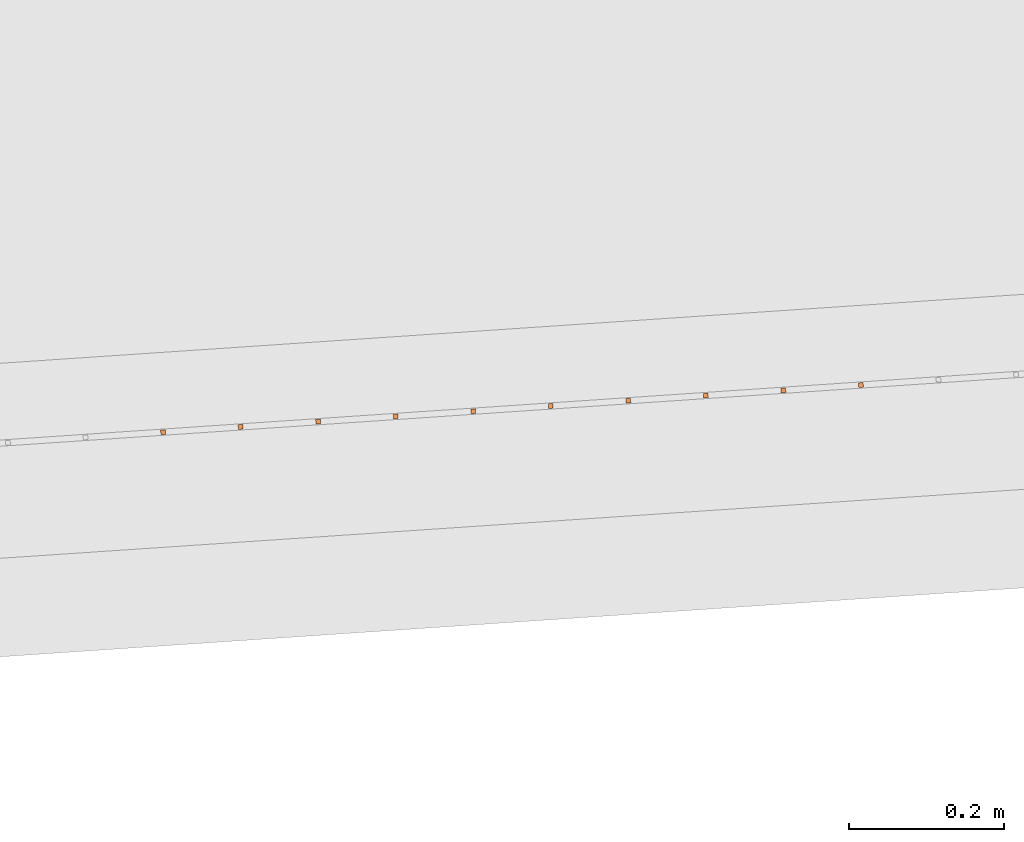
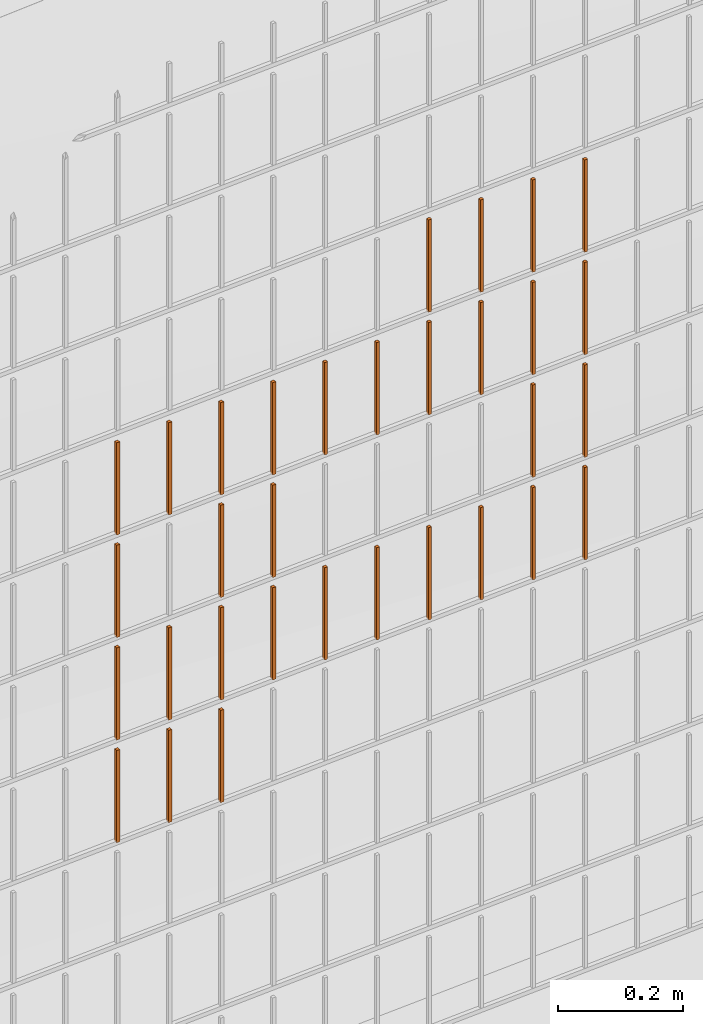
# One storey, part 390 of 1809: 32 proxies, 1 element without a shape of its own.
"""IFC2X3 building model written with IfcOpenShell, lengths in millimetres."""

from ifc_helpers import new_model, entity, si_unit, converted_unit, derived_unit, money_unit, direction, frame, origin_with_axes, place, context, subcontext, project, spatial, faceted_brep, source, transform, mapped, material, type_object, element, aggregate, save


model = new_model("IFC2X3")

# Units and contexts
model_context = context("Model", 3, precision=0.01, world=origin_with_axes(), true_north=direction((0.0, 1.0)))
body_context = subcontext(model_context, "Body", "Model", "MODEL_VIEW")
ifc_project = project(units=[si_unit("LENGTHUNIT", "METRE", prefix="MILLI"), si_unit("AREAUNIT", "SQUARE_METRE"), si_unit("VOLUMEUNIT", "CUBIC_METRE"), converted_unit("PLANEANGLEUNIT", "DEGREE", entity("IfcPlaneAngleMeasure", 0.0174532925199), si_unit("PLANEANGLEUNIT", "RADIAN"), dimensions=[0, 0, 0, 0, 0, 0, 0]), si_unit("SOLIDANGLEUNIT", "STERADIAN"), money_unit("EUR"), converted_unit("TIMEUNIT", "Year", entity("IfcTimeMeasure", 31556926.0), si_unit("TIMEUNIT", "SECOND"), dimensions=[0, 0, 1, 0, 0, 0, 0]), si_unit("MASSUNIT", "GRAM", prefix="KILO"), si_unit("THERMODYNAMICTEMPERATUREUNIT", "DEGREE_CELSIUS"), si_unit("LUMINOUSINTENSITYUNIT", "LUMEN"), si_unit("ENERGYUNIT", "JOULE", prefix="MEGA"), derived_unit("THERMALCONDUCTANCEUNIT", [(si_unit("POWERUNIT", "WATT"), 1), (si_unit("LENGTHUNIT", "METRE"), -1), (si_unit("THERMODYNAMICTEMPERATUREUNIT", "KELVIN"), -1)]), derived_unit("SPECIFICHEATCAPACITYUNIT", [(si_unit("ENERGYUNIT", "JOULE"), 1), (si_unit("MASSUNIT", "GRAM", prefix="KILO"), -1), (si_unit("THERMODYNAMICTEMPERATUREUNIT", "KELVIN"), -1)]), derived_unit("MASSDENSITYUNIT", [(si_unit("MASSUNIT", "GRAM", prefix="KILO"), 1), (si_unit("VOLUMEUNIT", "CUBIC_METRE"), -1)])], contexts=[model_context])

# Site, building, storey
site_placement = place(None, origin_with_axes())
site = spatial("IfcSite", under=ifc_project, at=site_placement, Name="Politse- ja Piirivalveameti ning Päästeameti ühishoone", CompositionType="ELEMENT")
building_placement = place(site_placement, origin_with_axes())
building = spatial("IfcBuilding", under=site, at=building_placement, Name="Politse- ja Piirivalveameti ning Päästeameti ühishoone", CompositionType="ELEMENT")
storey_placement = place(building_placement, origin_with_axes())
storey = spatial("IfcBuildingStorey", under=building, at=storey_placement, Name="Esimene korrus", CompositionType="ELEMENT", Elevation=0.0)

# Proxies
building_element_proxy_type_1 = type_object("IfcBuildingElementProxyType", Name="Railing Type", PredefinedType="NOTDEFINED")
proxy_1_placement = place(storey_placement, frame((89252.001212, -29183.4766571, 203.661247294), z_axis=(0.0, 0.0, 1.0), x_axis=(1.0, 0.0, 0.0)))
proxy_1 = element("IfcBuildingElementProxy", 1, at=proxy_1_placement, inside=storey, type_object=building_element_proxy_type_1, Name="PIIRDEAED")
ifc_material = material(Name="ET-03_Raud")
building_element_proxy_type_2 = type_object("IfcBuildingElementProxyType", Name="IfcBuildingElementProxy", PredefinedType="NOTDEFINED")
shared_shape_1 = source(origin_with_axes(), body_context, "Body", "Brep", [
    faceted_brep([(3.0, 3.0, -0.000752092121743), (-3.0, 3.0, -0.000752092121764), (-3.0, 3.0, 179.99926046), (3.0, 3.0, 179.99926046), (3.0, -3.0, 0.000752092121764), (-3.0, -3.0, 0.000752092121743), (-3.0, -3.0, 180.000764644), (3.0, -3.0, 180.000764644)], [[[0, 1, 2, 3]], [[0, 4, 5, 1]], [[1, 5, 6, 2]], [[3, 2, 6, 7]], [[4, 0, 3, 7]], [[5, 4, 7, 6]]]),
])
proxy_2_placement = place(proxy_1_placement, frame((-13994.7987184, -18243.0706006, 623.717931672), z_axis=(0.0, 0.0, 1.0), x_axis=(1.0, 0.0, 0.0)))
proxy_2 = element("IfcBuildingElementProxy", 2, at=proxy_2_placement, type_object=building_element_proxy_type_2, material=ifc_material, Name="BALUSTER - 001", context=body_context, shape_type="MappedRepresentation", body=[
    mapped(shared_shape_1, transform((0.0, 0.0, 0.0), x_axis=(-0.0673926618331, 0.997726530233, 0.0), y_axis=(-0.997726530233, -0.0673926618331, 0.0), z_axis=(0.0, 0.0, 1.0))),
])
shared_shape_2 = source(origin_with_axes(), body_context, "Body", "Brep", [
    faceted_brep([(3.0, 3.0, -0.000752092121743), (-3.0, 3.0, -0.000752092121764), (-3.0, 3.0, 179.99926046), (3.0, 3.0, 179.99926046), (3.0, -3.0, 0.000752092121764), (-3.0, -3.0, 0.000752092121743), (-3.0, -3.0, 180.000764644), (3.0, -3.0, 180.000764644)], [[[0, 1, 2, 3]], [[0, 4, 5, 1]], [[1, 5, 6, 2]], [[3, 2, 6, 7]], [[4, 0, 3, 7]], [[5, 4, 7, 6]]]),
])
proxy_3_placement = place(proxy_1_placement, frame((-13895.0260654, -18236.3313344, 823.743001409), z_axis=(0.0, 0.0, 1.0), x_axis=(1.0, 0.0, 0.0)))
proxy_3 = element("IfcBuildingElementProxy", 3, at=proxy_3_placement, type_object=building_element_proxy_type_2, material=ifc_material, Name="BALUSTER - 001", context=body_context, shape_type="MappedRepresentation", body=[
    mapped(shared_shape_2, transform((0.0, 0.0, 0.0), x_axis=(-0.0673926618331, 0.997726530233, 0.0), y_axis=(-0.997726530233, -0.0673926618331, 0.0), z_axis=(0.0, 0.0, 1.0))),
])
shared_shape_3 = source(origin_with_axes(), body_context, "Body", "Brep", [
    faceted_brep([(3.0, 3.0, -0.000752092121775), (-3.0, 3.0, -0.000752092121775), (-3.0, 3.0, 179.99926046), (3.0, 3.0, 179.99926046), (3.0, -3.0, 0.000752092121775), (-3.0, -3.0, 0.000752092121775), (-3.0, -3.0, 180.000764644), (3.0, -3.0, 180.000764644)], [[[0, 1, 2, 3]], [[0, 4, 5, 1]], [[1, 5, 6, 2]], [[3, 2, 6, 7]], [[4, 0, 3, 7]], [[5, 4, 7, 6]]]),
])
proxy_4_placement = place(proxy_1_placement, frame((-13196.6174943, -18189.1564711, 823.918489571), z_axis=(0.0, 0.0, 1.0), x_axis=(1.0, 0.0, 0.0)))
proxy_4 = element("IfcBuildingElementProxy", 4, at=proxy_4_placement, type_object=building_element_proxy_type_2, material=ifc_material, Name="BALUSTER - 001", context=body_context, shape_type="MappedRepresentation", body=[
    mapped(shared_shape_3, transform((0.0, 0.0, 0.0), x_axis=(-0.0673926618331, 0.997726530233, 0.0), y_axis=(-0.997726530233, -0.0673926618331, 0.0), z_axis=(0.0, 0.0, 1.0))),
])
shared_shape_4 = source(origin_with_axes(), body_context, "Body", "Brep", [
    faceted_brep([(3.0, 3.0, -0.000752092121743), (-3.0, 3.0, -0.000752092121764), (-3.0, 3.0, 179.99926046), (3.0, 3.0, 179.99926046), (3.0, -3.0, 0.000752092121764), (-3.0, -3.0, 0.000752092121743), (-3.0, -3.0, 180.000764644), (3.0, -3.0, 180.000764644)], [[[0, 1, 2, 3]], [[0, 4, 5, 1]], [[1, 5, 6, 2]], [[3, 2, 6, 7]], [[4, 0, 3, 7]], [[5, 4, 7, 6]]]),
])
proxy_5_placement = place(proxy_1_placement, frame((-13296.3901473, -18195.8957373, 823.893419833), z_axis=(0.0, 0.0, 1.0), x_axis=(1.0, 0.0, 0.0)))
proxy_5 = element("IfcBuildingElementProxy", 5, at=proxy_5_placement, type_object=building_element_proxy_type_2, material=ifc_material, Name="BALUSTER - 001", context=body_context, shape_type="MappedRepresentation", body=[
    mapped(shared_shape_4, transform((0.0, 0.0, 0.0), x_axis=(-0.0673926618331, 0.997726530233, 0.0), y_axis=(-0.997726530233, -0.0673926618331, 0.0), z_axis=(0.0, 0.0, 1.0))),
])
proxy_6_placement = place(proxy_1_placement, frame((-13595.7081064, -18216.1135358, 1223.81821062), z_axis=(0.0, 0.0, 1.0), x_axis=(1.0, 0.0, 0.0)))
proxy_6 = element("IfcBuildingElementProxy", 6, at=proxy_6_placement, type_object=building_element_proxy_type_2, material=ifc_material, Name="BALUSTER - 001", context=body_context, shape_type="MappedRepresentation", body=[
    mapped(shared_shape_4, transform((0.0, 0.0, 0.0), x_axis=(-0.0673926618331, 0.997726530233, 0.0), y_axis=(-0.997726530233, -0.0673926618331, 0.0), z_axis=(0.0, 0.0, 1.0))),
])
shared_shape_5 = source(origin_with_axes(), body_context, "Body", "Brep", [
    faceted_brep([(3.0, 3.0, -0.000752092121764), (-3.0, 3.0, -0.000752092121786), (-3.0, 3.0, 179.99926046), (3.0, 3.0, 179.99926046), (3.0, -3.0, 0.000752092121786), (-3.0, -3.0, 0.000752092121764), (-3.0, -3.0, 180.000764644), (3.0, -3.0, 180.000764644)], [[[0, 1, 2, 3]], [[0, 4, 5, 1]], [[1, 5, 6, 2]], [[3, 2, 6, 7]], [[4, 0, 3, 7]], [[5, 4, 7, 6]]]),
])
proxy_7_placement = place(proxy_1_placement, frame((-14094.5713715, -18249.8098668, 623.692861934), z_axis=(0.0, 0.0, 1.0), x_axis=(1.0, 0.0, 0.0)))
proxy_7 = element("IfcBuildingElementProxy", 7, at=proxy_7_placement, type_object=building_element_proxy_type_2, material=ifc_material, Name="BALUSTER - 001", context=body_context, shape_type="MappedRepresentation", body=[
    mapped(shared_shape_5, transform((0.0, 0.0, 0.0), x_axis=(-0.0673926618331, 0.997726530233, 0.0), y_axis=(-0.997726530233, -0.0673926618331, 0.0), z_axis=(0.0, 0.0, 1.0))),
])
shared_shape_6 = source(origin_with_axes(), body_context, "Body", "Brep", [
    faceted_brep([(3.0, 3.0, -0.000752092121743), (-3.0, 3.0, -0.000752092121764), (-3.0, 3.0, 179.99926046), (3.0, 3.0, 179.99926046), (3.0, -3.0, 0.000752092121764), (-3.0, -3.0, 0.000752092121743), (-3.0, -3.0, 180.000764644), (3.0, -3.0, 180.000764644)], [[[0, 1, 2, 3]], [[0, 4, 5, 1]], [[1, 5, 6, 2]], [[3, 2, 6, 7]], [[4, 0, 3, 7]], [[5, 4, 7, 6]]]),
])
proxy_8_placement = place(proxy_1_placement, frame((-13895.0260654, -18236.3313344, 623.743001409), z_axis=(0.0, 0.0, 1.0), x_axis=(1.0, 0.0, 0.0)))
proxy_8 = element("IfcBuildingElementProxy", 8, at=proxy_8_placement, type_object=building_element_proxy_type_2, material=ifc_material, Name="BALUSTER - 001", context=body_context, shape_type="MappedRepresentation", body=[
    mapped(shared_shape_6, transform((0.0, 0.0, 0.0), x_axis=(-0.0673926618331, 0.997726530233, 0.0), y_axis=(-0.997726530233, -0.0673926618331, 0.0), z_axis=(0.0, 0.0, 1.0))),
])
proxy_9_placement = place(proxy_1_placement, frame((-13994.7987184, -18243.0706006, 1223.71793167), z_axis=(0.0, 0.0, 1.0), x_axis=(1.0, 0.0, 0.0)))
proxy_9 = element("IfcBuildingElementProxy", 9, at=proxy_9_placement, type_object=building_element_proxy_type_2, material=ifc_material, Name="BALUSTER - 001", context=body_context, shape_type="MappedRepresentation", body=[
    mapped(shared_shape_6, transform((0.0, 0.0, 0.0), x_axis=(-0.0673926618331, 0.997726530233, 0.0), y_axis=(-0.997726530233, -0.0673926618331, 0.0), z_axis=(0.0, 0.0, 1.0))),
])
shared_shape_7 = source(origin_with_axes(), body_context, "Body", "Brep", [
    faceted_brep([(3.0, 3.0, -0.000752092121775), (-3.0, 3.0, -0.000752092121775), (-3.0, 3.0, 179.99926046), (3.0, 3.0, 179.99926046), (3.0, -3.0, 0.000752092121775), (-3.0, -3.0, 0.000752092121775), (-3.0, -3.0, 180.000764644), (3.0, -3.0, 180.000764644)], [[[0, 1, 2, 3]], [[0, 4, 5, 1]], [[1, 5, 6, 2]], [[3, 2, 6, 7]], [[4, 0, 3, 7]], [[5, 4, 7, 6]]]),
])
proxy_10_placement = place(proxy_1_placement, frame((-13795.2534124, -18229.5920682, 823.768071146), z_axis=(0.0, 0.0, 1.0), x_axis=(1.0, 0.0, 0.0)))
proxy_10 = element("IfcBuildingElementProxy", 10, at=proxy_10_placement, type_object=building_element_proxy_type_2, material=ifc_material, Name="BALUSTER - 001", context=body_context, shape_type="MappedRepresentation", body=[
    mapped(shared_shape_7, transform((0.0, 0.0, 0.0), x_axis=(-0.0673926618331, 0.997726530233, 0.0), y_axis=(-0.997726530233, -0.0673926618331, 0.0), z_axis=(0.0, 0.0, 1.0))),
])
shared_shape_8 = source(origin_with_axes(), body_context, "Body", "Brep", [
    faceted_brep([(3.0, 3.0, -0.000752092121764), (-3.0, 3.0, -0.000752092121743), (-3.0, 3.0, 179.99926046), (3.0, 3.0, 179.99926046), (3.0, -3.0, 0.000752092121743), (-3.0, -3.0, 0.000752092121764), (-3.0, -3.0, 180.000764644), (3.0, -3.0, 180.000764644)], [[[0, 1, 2, 3]], [[0, 4, 5, 1]], [[1, 5, 6, 2]], [[3, 2, 6, 7]], [[4, 0, 3, 7]], [[5, 4, 7, 6]]]),
])
proxy_11_placement = place(proxy_1_placement, frame((-13196.6174943, -18189.1564711, 1223.91848957), z_axis=(0.0, 0.0, 1.0), x_axis=(1.0, 0.0, 0.0)))
proxy_11 = element("IfcBuildingElementProxy", 11, at=proxy_11_placement, type_object=building_element_proxy_type_2, material=ifc_material, Name="BALUSTER - 001", context=body_context, shape_type="MappedRepresentation", body=[
    mapped(shared_shape_8, transform((0.0, 0.0, 0.0), x_axis=(-0.0673926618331, 0.997726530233, 0.0), y_axis=(-0.997726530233, -0.0673926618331, 0.0), z_axis=(0.0, 0.0, 1.0))),
])
shared_shape_9 = source(origin_with_axes(), body_context, "Body", "Brep", [
    faceted_brep([(3.0, 3.0, -0.000752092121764), (-3.0, 3.0, -0.000752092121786), (-3.0, 3.0, 179.99926046), (3.0, 3.0, 179.99926046), (3.0, -3.0, 0.000752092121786), (-3.0, -3.0, 0.000752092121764), (-3.0, -3.0, 180.000764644), (3.0, -3.0, 180.000764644)], [[[0, 1, 2, 3]], [[0, 4, 5, 1]], [[1, 5, 6, 2]], [[3, 2, 6, 7]], [[4, 0, 3, 7]], [[5, 4, 7, 6]]]),
])
proxy_12_placement = place(proxy_1_placement, frame((-14094.5713715, -18249.8098668, 823.692861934), z_axis=(0.0, 0.0, 1.0), x_axis=(1.0, 0.0, 0.0)))
proxy_12 = element("IfcBuildingElementProxy", 12, at=proxy_12_placement, type_object=building_element_proxy_type_2, material=ifc_material, Name="BALUSTER - 001", context=body_context, shape_type="MappedRepresentation", body=[
    mapped(shared_shape_9, transform((0.0, 0.0, 0.0), x_axis=(-0.0673926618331, 0.997726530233, 0.0), y_axis=(-0.997726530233, -0.0673926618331, 0.0), z_axis=(0.0, 0.0, 1.0))),
])
shared_shape_10 = source(origin_with_axes(), body_context, "Body", "Brep", [
    faceted_brep([(3.0, 3.0, -0.000752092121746), (-3.0, 3.0, -0.000752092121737), (-3.00000000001, 2.99999999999, 179.99926046), (2.99999999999, 2.99999999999, 179.99926046), (3.0, -3.0, 0.000752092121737), (-3.0, -3.0, 0.000752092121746), (-3.00000000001, -3.00000000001, 180.000764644), (2.99999999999, -3.00000000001, 180.000764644)], [[[0, 1, 2, 3]], [[0, 4, 5, 1]], [[1, 5, 6, 2]], [[3, 2, 6, 7]], [[4, 0, 3, 7]], [[5, 4, 7, 6]]]),
])
proxy_13_placement = place(proxy_1_placement, frame((-13895.0260654, -18236.3313344, 1023.74300141), z_axis=(0.0, 0.0, 1.0), x_axis=(1.0, 0.0, 0.0)))
proxy_13 = element("IfcBuildingElementProxy", 13, at=proxy_13_placement, type_object=building_element_proxy_type_2, material=ifc_material, Name="BALUSTER - 001", context=body_context, shape_type="MappedRepresentation", body=[
    mapped(shared_shape_10, transform((0.0, 0.0, 0.0), x_axis=(-0.0673926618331, 0.997726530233, 0.0), y_axis=(-0.997726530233, -0.0673926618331, 0.0), z_axis=(0.0, 0.0, 1.0))),
])
shared_shape_11 = source(origin_with_axes(), body_context, "Body", "Brep", [
    faceted_brep([(3.0, 3.0, -0.000752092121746), (-3.0, 3.0, -0.000752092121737), (-3.00000000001, 2.99999999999, 179.99926046), (2.99999999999, 2.99999999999, 179.99926046), (3.0, -3.0, 0.000752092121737), (-3.0, -3.0, 0.000752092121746), (-3.00000000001, -3.00000000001, 180.000764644), (2.99999999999, -3.00000000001, 180.000764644)], [[[0, 1, 2, 3]], [[0, 4, 5, 1]], [[1, 5, 6, 2]], [[3, 2, 6, 7]], [[4, 0, 3, 7]], [[5, 4, 7, 6]]]),
])
proxy_14_placement = place(proxy_1_placement, frame((-13296.3901473, -18195.8957373, 1023.89341983), z_axis=(0.0, 0.0, 1.0), x_axis=(1.0, 0.0, 0.0)))
proxy_14 = element("IfcBuildingElementProxy", 14, at=proxy_14_placement, type_object=building_element_proxy_type_2, material=ifc_material, Name="BALUSTER - 001", context=body_context, shape_type="MappedRepresentation", body=[
    mapped(shared_shape_11, transform((0.0, 0.0, 0.0), x_axis=(-0.0673926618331, 0.997726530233, 0.0), y_axis=(-0.997726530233, -0.0673926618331, 0.0), z_axis=(0.0, 0.0, 1.0))),
])
shared_shape_12 = source(origin_with_axes(), body_context, "Body", "Brep", [
    faceted_brep([(3.0, 3.0, -0.000752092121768), (-3.0, 3.0, -0.000752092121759), (-3.00000000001, 2.99999999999, 179.99926046), (2.99999999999, 2.99999999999, 179.99926046), (3.0, -3.0, 0.000752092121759), (-3.0, -3.0, 0.000752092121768), (-3.00000000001, -3.00000000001, 180.000764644), (2.99999999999, -3.00000000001, 180.000764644)], [[[0, 1, 2, 3]], [[0, 4, 5, 1]], [[1, 5, 6, 2]], [[3, 2, 6, 7]], [[4, 0, 3, 7]], [[5, 4, 7, 6]]]),
])
proxy_15_placement = place(proxy_1_placement, frame((-14094.5713715, -18249.8098668, 1023.69286193), z_axis=(0.0, 0.0, 1.0), x_axis=(1.0, 0.0, 0.0)))
proxy_15 = element("IfcBuildingElementProxy", 15, at=proxy_15_placement, type_object=building_element_proxy_type_2, material=ifc_material, Name="BALUSTER - 001", context=body_context, shape_type="MappedRepresentation", body=[
    mapped(shared_shape_12, transform((0.0, 0.0, 0.0), x_axis=(-0.0673926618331, 0.997726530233, 0.0), y_axis=(-0.997726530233, -0.0673926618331, 0.0), z_axis=(0.0, 0.0, 1.0))),
])
shared_shape_13 = source(origin_with_axes(), body_context, "Body", "Brep", [
    faceted_brep([(3.0, 3.0, -0.000752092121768), (-3.0, 3.0, -0.000752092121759), (-3.00000000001, 2.99999999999, 179.99926046), (2.99999999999, 2.99999999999, 179.99926046), (3.0, -3.0, 0.000752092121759), (-3.0, -3.0, 0.000752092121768), (-3.00000000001, -3.00000000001, 180.000764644), (2.99999999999, -3.00000000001, 180.000764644)], [[[0, 1, 2, 3]], [[0, 4, 5, 1]], [[1, 5, 6, 2]], [[3, 2, 6, 7]], [[4, 0, 3, 7]], [[5, 4, 7, 6]]]),
])
proxy_16_placement = place(proxy_1_placement, frame((-13196.6174943, -18189.1564711, 1023.91848957), z_axis=(0.0, 0.0, 1.0), x_axis=(1.0, 0.0, 0.0)))
proxy_16 = element("IfcBuildingElementProxy", 16, at=proxy_16_placement, type_object=building_element_proxy_type_2, material=ifc_material, Name="BALUSTER - 001", context=body_context, shape_type="MappedRepresentation", body=[
    mapped(shared_shape_13, transform((0.0, 0.0, 0.0), x_axis=(-0.0673926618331, 0.997726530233, 0.0), y_axis=(-0.997726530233, -0.0673926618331, 0.0), z_axis=(0.0, 0.0, 1.0))),
])
shared_shape_14 = source(origin_with_axes(), body_context, "Body", "Brep", [
    faceted_brep([(3.0, 3.0, -0.000752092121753), (-3.0, 3.0, -0.000752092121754), (-3.0, 3.0, 179.99926046), (3.0, 3.0, 179.99926046), (3.0, -3.0, 0.000752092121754), (-3.0, -3.0, 0.000752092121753), (-3.0, -3.0, 180.000764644), (3.0, -3.0, 180.000764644)], [[[0, 1, 2, 3]], [[0, 4, 5, 1]], [[1, 5, 6, 2]], [[3, 2, 6, 7]], [[4, 0, 3, 7]], [[5, 4, 7, 6]]]),
])
proxy_17_placement = place(proxy_1_placement, frame((-13495.9354533, -18209.3742697, 823.843280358), z_axis=(0.0, 0.0, 1.0), x_axis=(1.0, 0.0, 0.0)))
proxy_17 = element("IfcBuildingElementProxy", 17, at=proxy_17_placement, type_object=building_element_proxy_type_2, material=ifc_material, Name="BALUSTER - 001", context=body_context, shape_type="MappedRepresentation", body=[
    mapped(shared_shape_14, transform((0.0, 0.0, 0.0), x_axis=(-0.0673926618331, 0.997726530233, 0.0), y_axis=(-0.997726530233, -0.0673926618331, 0.0), z_axis=(0.0, 0.0, 1.0))),
])
proxy_18_placement = place(proxy_1_placement, frame((-13495.9354533, -18209.3742697, 1223.84328036), z_axis=(0.0, 0.0, 1.0), x_axis=(1.0, 0.0, 0.0)))
proxy_18 = element("IfcBuildingElementProxy", 18, at=proxy_18_placement, type_object=building_element_proxy_type_2, material=ifc_material, Name="BALUSTER - 001", context=body_context, shape_type="MappedRepresentation", body=[
    mapped(shared_shape_14, transform((0.0, 0.0, 0.0), x_axis=(-0.0673926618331, 0.997726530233, 0.0), y_axis=(-0.997726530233, -0.0673926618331, 0.0), z_axis=(0.0, 0.0, 1.0))),
])
shared_shape_15 = source(origin_with_axes(), body_context, "Body", "Brep", [
    faceted_brep([(3.0, 3.0, -0.000752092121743), (-3.0, 3.0, -0.000752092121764), (-3.0, 3.0, 179.99926046), (3.0, 3.0, 179.99926046), (3.0, -3.0, 0.000752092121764), (-3.0, -3.0, 0.000752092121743), (-3.0, -3.0, 180.000764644), (3.0, -3.0, 180.000764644)], [[[0, 1, 2, 3]], [[0, 4, 5, 1]], [[1, 5, 6, 2]], [[3, 2, 6, 7]], [[4, 0, 3, 7]], [[5, 4, 7, 6]]]),
])
proxy_19_placement = place(proxy_1_placement, frame((-13994.7987184, -18243.0706006, 823.717931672), z_axis=(0.0, 0.0, 1.0), x_axis=(1.0, 0.0, 0.0)))
proxy_19 = element("IfcBuildingElementProxy", 19, at=proxy_19_placement, type_object=building_element_proxy_type_2, material=ifc_material, Name="BALUSTER - 001", context=body_context, shape_type="MappedRepresentation", body=[
    mapped(shared_shape_15, transform((0.0, 0.0, 0.0), x_axis=(-0.0673926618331, 0.997726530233, 0.0), y_axis=(-0.997726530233, -0.0673926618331, 0.0), z_axis=(0.0, 0.0, 1.0))),
])
shared_shape_16 = source(origin_with_axes(), body_context, "Body", "Brep", [
    faceted_brep([(3.0, 3.0, -0.000752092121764), (-3.0, 3.0, -0.000752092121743), (-3.0, 3.0, 179.99926046), (3.0, 3.0, 179.99926046), (3.0, -3.0, 0.000752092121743), (-3.0, -3.0, 0.000752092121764), (-3.0, -3.0, 180.000764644), (3.0, -3.0, 180.000764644)], [[[0, 1, 2, 3]], [[0, 4, 5, 1]], [[1, 5, 6, 2]], [[3, 2, 6, 7]], [[4, 0, 3, 7]], [[5, 4, 7, 6]]]),
])
proxy_20_placement = place(proxy_1_placement, frame((-13396.1628003, -18202.6350035, 1223.8683501), z_axis=(0.0, 0.0, 1.0), x_axis=(1.0, 0.0, 0.0)))
proxy_20 = element("IfcBuildingElementProxy", 20, at=proxy_20_placement, type_object=building_element_proxy_type_2, material=ifc_material, Name="BALUSTER - 001", context=body_context, shape_type="MappedRepresentation", body=[
    mapped(shared_shape_16, transform((0.0, 0.0, 0.0), x_axis=(-0.0673926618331, 0.997726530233, 0.0), y_axis=(-0.997726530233, -0.0673926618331, 0.0), z_axis=(0.0, 0.0, 1.0))),
])
shared_shape_17 = source(origin_with_axes(), body_context, "Body", "Brep", [
    faceted_brep([(3.0, 3.0, -0.000752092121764), (-3.0, 3.0, -0.000752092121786), (-3.0, 3.0, 179.99926046), (3.0, 3.0, 179.99926046), (3.0, -3.0, 0.000752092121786), (-3.0, -3.0, 0.000752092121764), (-3.0, -3.0, 180.000764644), (3.0, -3.0, 180.000764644)], [[[0, 1, 2, 3]], [[0, 4, 5, 1]], [[1, 5, 6, 2]], [[3, 2, 6, 7]], [[4, 0, 3, 7]], [[5, 4, 7, 6]]]),
])
proxy_21_placement = place(proxy_1_placement, frame((-14094.5713715, -18249.8098668, 1223.69286193), z_axis=(0.0, 0.0, 1.0), x_axis=(1.0, 0.0, 0.0)))
proxy_21 = element("IfcBuildingElementProxy", 21, at=proxy_21_placement, type_object=building_element_proxy_type_2, material=ifc_material, Name="BALUSTER - 001", context=body_context, shape_type="MappedRepresentation", body=[
    mapped(shared_shape_17, transform((0.0, 0.0, 0.0), x_axis=(-0.0673926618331, 0.997726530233, 0.0), y_axis=(-0.997726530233, -0.0673926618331, 0.0), z_axis=(0.0, 0.0, 1.0))),
])
shared_shape_18 = source(origin_with_axes(), body_context, "Body", "Brep", [
    faceted_brep([(3.0, 3.0, -0.000752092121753), (-3.0, 3.0, -0.000752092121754), (-3.0, 3.0, 179.99926046), (3.0, 3.0, 179.99926046), (3.0, -3.0, 0.000752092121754), (-3.0, -3.0, 0.000752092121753), (-3.0, -3.0, 180.000764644), (3.0, -3.0, 180.000764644)], [[[0, 1, 2, 3]], [[0, 4, 5, 1]], [[1, 5, 6, 2]], [[3, 2, 6, 7]], [[4, 0, 3, 7]], [[5, 4, 7, 6]]]),
])
proxy_22_placement = place(proxy_1_placement, frame((-13495.9354533, -18209.3742697, 1423.84328036), z_axis=(0.0, 0.0, 1.0), x_axis=(1.0, 0.0, 0.0)))
proxy_22 = element("IfcBuildingElementProxy", 22, at=proxy_22_placement, type_object=building_element_proxy_type_2, material=ifc_material, Name="BALUSTER - 001", context=body_context, shape_type="MappedRepresentation", body=[
    mapped(shared_shape_18, transform((0.0, 0.0, 0.0), x_axis=(-0.0673926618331, 0.997726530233, 0.0), y_axis=(-0.997726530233, -0.0673926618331, 0.0), z_axis=(0.0, 0.0, 1.0))),
])
shared_shape_19 = source(origin_with_axes(), body_context, "Body", "Brep", [
    faceted_brep([(3.0, 3.0, -0.000752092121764), (-3.0, 3.0, -0.000752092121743), (-3.0, 3.0, 179.99926046), (3.0, 3.0, 179.99926046), (3.0, -3.0, 0.000752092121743), (-3.0, -3.0, 0.000752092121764), (-3.0, -3.0, 180.000764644), (3.0, -3.0, 180.000764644)], [[[0, 1, 2, 3]], [[0, 4, 5, 1]], [[1, 5, 6, 2]], [[3, 2, 6, 7]], [[4, 0, 3, 7]], [[5, 4, 7, 6]]]),
])
proxy_23_placement = place(proxy_1_placement, frame((-13396.1628003, -18202.6350035, 1423.8683501), z_axis=(0.0, 0.0, 1.0), x_axis=(1.0, 0.0, 0.0)))
proxy_23 = element("IfcBuildingElementProxy", 23, at=proxy_23_placement, type_object=building_element_proxy_type_2, material=ifc_material, Name="BALUSTER - 001", context=body_context, shape_type="MappedRepresentation", body=[
    mapped(shared_shape_19, transform((0.0, 0.0, 0.0), x_axis=(-0.0673926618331, 0.997726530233, 0.0), y_axis=(-0.997726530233, -0.0673926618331, 0.0), z_axis=(0.0, 0.0, 1.0))),
])
shared_shape_20 = source(origin_with_axes(), body_context, "Body", "Brep", [
    faceted_brep([(3.0, 3.0, -0.000752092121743), (-3.0, 3.0, -0.000752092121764), (-3.0, 3.0, 179.99926046), (3.0, 3.0, 179.99926046), (3.0, -3.0, 0.000752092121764), (-3.0, -3.0, 0.000752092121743), (-3.0, -3.0, 180.000764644), (3.0, -3.0, 180.000764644)], [[[0, 1, 2, 3]], [[0, 4, 5, 1]], [[1, 5, 6, 2]], [[3, 2, 6, 7]], [[4, 0, 3, 7]], [[5, 4, 7, 6]]]),
])
proxy_24_placement = place(proxy_1_placement, frame((-13396.1628003, -18202.6350035, 823.868350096), z_axis=(0.0, 0.0, 1.0), x_axis=(1.0, 0.0, 0.0)))
proxy_24 = element("IfcBuildingElementProxy", 24, at=proxy_24_placement, type_object=building_element_proxy_type_2, material=ifc_material, Name="BALUSTER - 001", context=body_context, shape_type="MappedRepresentation", body=[
    mapped(shared_shape_20, transform((0.0, 0.0, 0.0), x_axis=(-0.0673926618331, 0.997726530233, 0.0), y_axis=(-0.997726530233, -0.0673926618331, 0.0), z_axis=(0.0, 0.0, 1.0))),
])
proxy_25_placement = place(proxy_1_placement, frame((-13795.2534124, -18229.5920682, 1223.76807115), z_axis=(0.0, 0.0, 1.0), x_axis=(1.0, 0.0, 0.0)))
proxy_25 = element("IfcBuildingElementProxy", 25, at=proxy_25_placement, type_object=building_element_proxy_type_2, material=ifc_material, Name="BALUSTER - 001", context=body_context, shape_type="MappedRepresentation", body=[
    mapped(shared_shape_20, transform((0.0, 0.0, 0.0), x_axis=(-0.0673926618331, 0.997726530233, 0.0), y_axis=(-0.997726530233, -0.0673926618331, 0.0), z_axis=(0.0, 0.0, 1.0))),
])
shared_shape_21 = source(origin_with_axes(), body_context, "Body", "Brep", [
    faceted_brep([(3.0, 3.0, -0.000752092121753), (-3.0, 3.0, -0.000752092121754), (-3.0, 3.0, 179.99926046), (3.0, 3.0, 179.99926046), (3.0, -3.0, 0.000752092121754), (-3.0, -3.0, 0.000752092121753), (-3.0, -3.0, 180.000764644), (3.0, -3.0, 180.000764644)], [[[0, 1, 2, 3]], [[0, 4, 5, 1]], [[1, 5, 6, 2]], [[3, 2, 6, 7]], [[4, 0, 3, 7]], [[5, 4, 7, 6]]]),
])
proxy_26_placement = place(proxy_1_placement, frame((-13595.7081064, -18216.1135358, 823.818210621), z_axis=(0.0, 0.0, 1.0), x_axis=(1.0, 0.0, 0.0)))
proxy_26 = element("IfcBuildingElementProxy", 26, at=proxy_26_placement, type_object=building_element_proxy_type_2, material=ifc_material, Name="BALUSTER - 001", context=body_context, shape_type="MappedRepresentation", body=[
    mapped(shared_shape_21, transform((0.0, 0.0, 0.0), x_axis=(-0.0673926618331, 0.997726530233, 0.0), y_axis=(-0.997726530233, -0.0673926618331, 0.0), z_axis=(0.0, 0.0, 1.0))),
])
proxy_27_placement = place(proxy_1_placement, frame((-13895.0260654, -18236.3313344, 1223.74300141), z_axis=(0.0, 0.0, 1.0), x_axis=(1.0, 0.0, 0.0)))
proxy_27 = element("IfcBuildingElementProxy", 27, at=proxy_27_placement, type_object=building_element_proxy_type_2, material=ifc_material, Name="BALUSTER - 001", context=body_context, shape_type="MappedRepresentation", body=[
    mapped(shared_shape_21, transform((0.0, 0.0, 0.0), x_axis=(-0.0673926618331, 0.997726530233, 0.0), y_axis=(-0.997726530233, -0.0673926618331, 0.0), z_axis=(0.0, 0.0, 1.0))),
])
shared_shape_22 = source(origin_with_axes(), body_context, "Body", "Brep", [
    faceted_brep([(3.0, 3.0, -0.000752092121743), (-3.0, 3.0, -0.000752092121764), (-3.0, 3.0, 179.99926046), (3.0, 3.0, 179.99926046), (3.0, -3.0, 0.000752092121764), (-3.0, -3.0, 0.000752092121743), (-3.0, -3.0, 180.000764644), (3.0, -3.0, 180.000764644)], [[[0, 1, 2, 3]], [[0, 4, 5, 1]], [[1, 5, 6, 2]], [[3, 2, 6, 7]], [[4, 0, 3, 7]], [[5, 4, 7, 6]]]),
])
proxy_28_placement = place(proxy_1_placement, frame((-13296.3901473, -18195.8957373, 1223.89341983), z_axis=(0.0, 0.0, 1.0), x_axis=(1.0, 0.0, 0.0)))
proxy_28 = element("IfcBuildingElementProxy", 28, at=proxy_28_placement, type_object=building_element_proxy_type_2, material=ifc_material, Name="BALUSTER - 001", context=body_context, shape_type="MappedRepresentation", body=[
    mapped(shared_shape_22, transform((0.0, 0.0, 0.0), x_axis=(-0.0673926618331, 0.997726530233, 0.0), y_axis=(-0.997726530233, -0.0673926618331, 0.0), z_axis=(0.0, 0.0, 1.0))),
])
shared_shape_23 = source(origin_with_axes(), body_context, "Body", "Brep", [
    faceted_brep([(3.0, 3.0, -0.000752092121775), (-3.0, 3.0, -0.000752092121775), (-3.0, 3.0, 179.99926046), (3.0, 3.0, 179.99926046), (3.0, -3.0, 0.000752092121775), (-3.0, -3.0, 0.000752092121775), (-3.0, -3.0, 180.000764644), (3.0, -3.0, 180.000764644)], [[[0, 1, 2, 3]], [[0, 4, 5, 1]], [[1, 5, 6, 2]], [[3, 2, 6, 7]], [[4, 0, 3, 7]], [[5, 4, 7, 6]]]),
])
proxy_29_placement = place(proxy_1_placement, frame((-13695.4807594, -18222.852802, 823.793140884), z_axis=(0.0, 0.0, 1.0), x_axis=(1.0, 0.0, 0.0)))
proxy_29 = element("IfcBuildingElementProxy", 29, at=proxy_29_placement, type_object=building_element_proxy_type_2, material=ifc_material, Name="BALUSTER - 001", context=body_context, shape_type="MappedRepresentation", body=[
    mapped(shared_shape_23, transform((0.0, 0.0, 0.0), x_axis=(-0.0673926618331, 0.997726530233, 0.0), y_axis=(-0.997726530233, -0.0673926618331, 0.0), z_axis=(0.0, 0.0, 1.0))),
])
shared_shape_24 = source(origin_with_axes(), body_context, "Body", "Brep", [
    faceted_brep([(3.0, 3.0, -0.000752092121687), (-3.0, 3.0, -0.000752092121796), (-3.00000000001, 2.99999999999, 179.99926046), (2.99999999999, 2.99999999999, 179.99926046), (3.0, -3.0, 0.000752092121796), (-3.0, -3.0, 0.000752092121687), (-3.00000000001, -3.00000000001, 180.000764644), (2.99999999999, -3.00000000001, 180.000764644)], [[[0, 1, 2, 3]], [[0, 4, 5, 1]], [[1, 5, 6, 2]], [[3, 2, 6, 7]], [[4, 0, 3, 7]], [[5, 4, 7, 6]]]),
])
proxy_30_placement = place(proxy_1_placement, frame((-13795.2534124, -18229.5920682, 1023.76807115), z_axis=(0.0, 0.0, 1.0), x_axis=(1.0, 0.0, 0.0)))
proxy_30 = element("IfcBuildingElementProxy", 30, at=proxy_30_placement, type_object=building_element_proxy_type_2, material=ifc_material, Name="BALUSTER - 001", context=body_context, shape_type="MappedRepresentation", body=[
    mapped(shared_shape_24, transform((0.0, 0.0, 0.0), x_axis=(-0.0673926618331, 0.997726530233, 0.0), y_axis=(-0.997726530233, -0.0673926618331, 0.0), z_axis=(0.0, 0.0, 1.0))),
])
shared_shape_25 = source(origin_with_axes(), body_context, "Body", "Brep", [
    faceted_brep([(3.0, 3.0, -0.000752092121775), (-3.0, 3.0, -0.000752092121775), (-3.0, 3.0, 179.99926046), (3.0, 3.0, 179.99926046), (3.0, -3.0, 0.000752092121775), (-3.0, -3.0, 0.000752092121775), (-3.0, -3.0, 180.000764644), (3.0, -3.0, 180.000764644)], [[[0, 1, 2, 3]], [[0, 4, 5, 1]], [[1, 5, 6, 2]], [[3, 2, 6, 7]], [[4, 0, 3, 7]], [[5, 4, 7, 6]]]),
])
proxy_31_placement = place(proxy_1_placement, frame((-13695.4807594, -18222.852802, 1223.79314088), z_axis=(0.0, 0.0, 1.0), x_axis=(1.0, 0.0, 0.0)))
proxy_31 = element("IfcBuildingElementProxy", 31, at=proxy_31_placement, type_object=building_element_proxy_type_2, material=ifc_material, Name="BALUSTER - 001", context=body_context, shape_type="MappedRepresentation", body=[
    mapped(shared_shape_25, transform((0.0, 0.0, 0.0), x_axis=(-0.0673926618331, 0.997726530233, 0.0), y_axis=(-0.997726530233, -0.0673926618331, 0.0), z_axis=(0.0, 0.0, 1.0))),
])
shared_shape_26 = source(origin_with_axes(), body_context, "Body", "Brep", [
    faceted_brep([(3.0, 3.0, -0.000752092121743), (-3.0, 3.0, -0.000752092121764), (-3.0, 3.0, 179.99926046), (3.0, 3.0, 179.99926046), (3.0, -3.0, 0.000752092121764), (-3.0, -3.0, 0.000752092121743), (-3.0, -3.0, 180.000764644), (3.0, -3.0, 180.000764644)], [[[0, 1, 2, 3]], [[0, 4, 5, 1]], [[1, 5, 6, 2]], [[3, 2, 6, 7]], [[4, 0, 3, 7]], [[5, 4, 7, 6]]]),
])
proxy_32_placement = place(proxy_1_placement, frame((-13296.3901473, -18195.8957373, 1423.89341983), z_axis=(0.0, 0.0, 1.0), x_axis=(1.0, 0.0, 0.0)))
proxy_32 = element("IfcBuildingElementProxy", 32, at=proxy_32_placement, type_object=building_element_proxy_type_2, material=ifc_material, Name="BALUSTER - 001", context=body_context, shape_type="MappedRepresentation", body=[
    mapped(shared_shape_26, transform((0.0, 0.0, 0.0), x_axis=(-0.0673926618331, 0.997726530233, 0.0), y_axis=(-0.997726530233, -0.0673926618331, 0.0), z_axis=(0.0, 0.0, 1.0))),
])
shared_shape_27 = source(origin_with_axes(), body_context, "Body", "Brep", [
    faceted_brep([(3.0, 3.0, -0.000752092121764), (-3.0, 3.0, -0.000752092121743), (-3.0, 3.0, 179.99926046), (3.0, 3.0, 179.99926046), (3.0, -3.0, 0.000752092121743), (-3.0, -3.0, 0.000752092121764), (-3.0, -3.0, 180.000764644), (3.0, -3.0, 180.000764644)], [[[0, 1, 2, 3]], [[0, 4, 5, 1]], [[1, 5, 6, 2]], [[3, 2, 6, 7]], [[4, 0, 3, 7]], [[5, 4, 7, 6]]]),
])
proxy_33_placement = place(proxy_1_placement, frame((-13196.6174943, -18189.1564711, 1423.91848957), z_axis=(0.0, 0.0, 1.0), x_axis=(1.0, 0.0, 0.0)))
proxy_33 = element("IfcBuildingElementProxy", 33, at=proxy_33_placement, type_object=building_element_proxy_type_2, material=ifc_material, Name="BALUSTER - 001", context=body_context, shape_type="MappedRepresentation", body=[
    mapped(shared_shape_27, transform((0.0, 0.0, 0.0), x_axis=(-0.0673926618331, 0.997726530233, 0.0), y_axis=(-0.997726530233, -0.0673926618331, 0.0), z_axis=(0.0, 0.0, 1.0))),
])
aggregate(proxy_1, [proxy_8, proxy_2, proxy_7, proxy_4, proxy_5, proxy_24, proxy_17, proxy_26, proxy_29, proxy_10, proxy_3, proxy_19, proxy_12, proxy_16, proxy_14, proxy_30, proxy_13, proxy_15, proxy_11, proxy_28, proxy_20, proxy_18, proxy_6, proxy_31, proxy_25, proxy_27, proxy_9, proxy_21, proxy_33, proxy_32, proxy_23, proxy_22])

save(model, "model.ifc")
